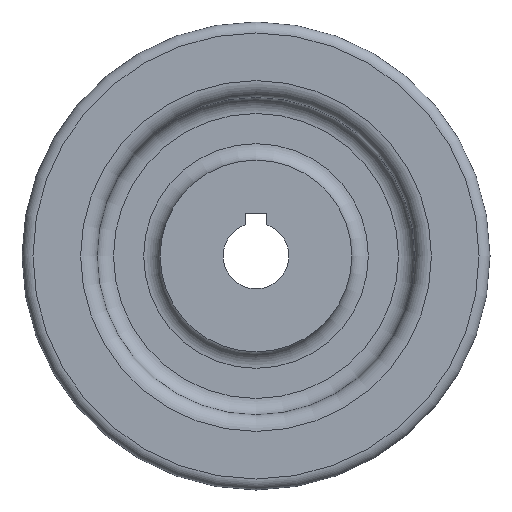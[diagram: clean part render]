
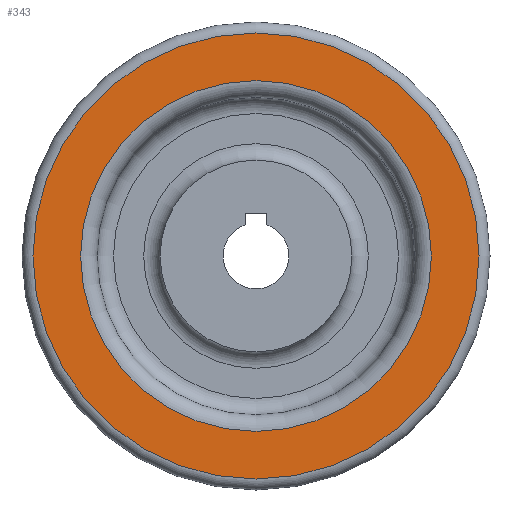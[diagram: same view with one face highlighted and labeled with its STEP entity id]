
A CAD part, left-side view. The second image highlights one B-rep face of the part: STEP entity #343.
In plain terms, the highlighted planar face has unit normal (-1, 0, 0).
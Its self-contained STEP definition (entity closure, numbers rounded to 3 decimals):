
#44=PLANE('',#380);
#57=FACE_BOUND('',#117,.T.);
#82=FACE_OUTER_BOUND('',#116,.T.);
#116=EDGE_LOOP('',(#264));
#117=EDGE_LOOP('',(#265));
#165=CIRCLE('',#379,32.);
#166=CIRCLE('',#381,40.7);
#191=VERTEX_POINT('',#562);
#192=VERTEX_POINT('',#565);
#223=EDGE_CURVE('',#191,#191,#165,.T.);
#224=EDGE_CURVE('',#192,#192,#166,.T.);
#264=ORIENTED_EDGE('',*,*,#224,.F.);
#265=ORIENTED_EDGE('',*,*,#223,.F.);
#343=ADVANCED_FACE('',(#82,#57),#44,.F.);
#379=AXIS2_PLACEMENT_3D('',#563,#446,#447);
#380=AXIS2_PLACEMENT_3D('',#564,#448,#449);
#381=AXIS2_PLACEMENT_3D('',#566,#450,#451);
#446=DIRECTION('center_axis',(-1.,0.,0.));
#447=DIRECTION('ref_axis',(0.,0.,-1.));
#448=DIRECTION('center_axis',(1.,0.,0.));
#449=DIRECTION('ref_axis',(0.,0.,-1.));
#450=DIRECTION('center_axis',(1.,0.,0.));
#451=DIRECTION('ref_axis',(0.,-1.,0.));
#562=CARTESIAN_POINT('',(-9.5,0.,32.));
#563=CARTESIAN_POINT('Origin',(-9.5,0.,0.));
#564=CARTESIAN_POINT('Origin',(-9.5,0.,0.));
#565=CARTESIAN_POINT('',(-9.5,40.7,0.));
#566=CARTESIAN_POINT('Origin',(-9.5,0.,0.));
